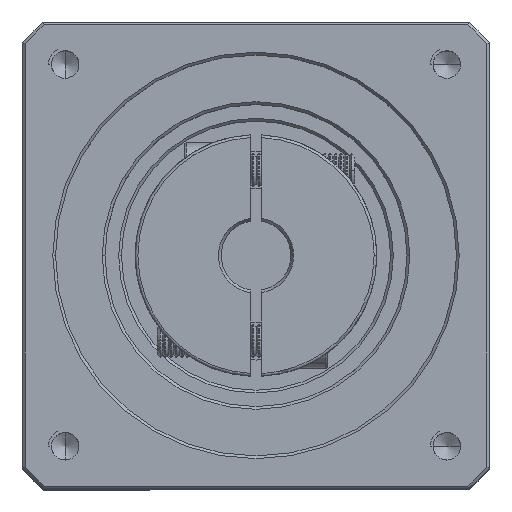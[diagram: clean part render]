
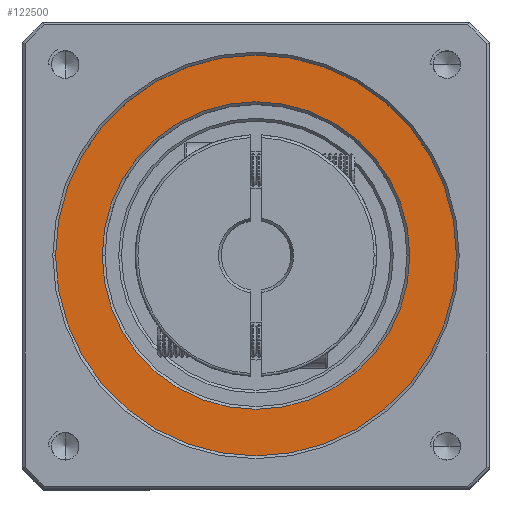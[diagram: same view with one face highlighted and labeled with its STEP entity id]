
A CAD part, top view. The second image highlights one B-rep face of the part: STEP entity #122500.
In plain terms, the highlighted planar face has unit normal (0, 0, 1).
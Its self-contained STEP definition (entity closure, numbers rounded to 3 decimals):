
#4047 = DIRECTION ( 'NONE',  ( 1., 0., 0. ) ) ;
#8746 = CARTESIAN_POINT ( 'NONE',  ( 1.842, 1.512, 180. ) ) ;
#14284 = DIRECTION ( 'NONE',  ( 0., 0., -1. ) ) ;
#14746 = CIRCLE ( 'NONE', #98863, 36.5 ) ;
#14783 = DIRECTION ( 'NONE',  ( 1., 0., 0. ) ) ;
#15607 = CIRCLE ( 'NONE', #68091, 28. ) ;
#16497 = CARTESIAN_POINT ( 'NONE',  ( -34.658, 1.512, 180. ) ) ;
#25905 = DIRECTION ( 'NONE',  ( 0., 0., 1. ) ) ;
#29462 = CARTESIAN_POINT ( 'NONE',  ( -62.658, 1.512, 180. ) ) ;
#31641 = FACE_BOUND ( 'NONE', #112313, .T. ) ;
#39882 = EDGE_CURVE ( 'NONE', #62504, #107399, #15607, .T. ) ;
#42168 = CARTESIAN_POINT ( 'NONE',  ( -34.658, 1.512, 180. ) ) ;
#49841 = ORIENTED_EDGE ( 'NONE', *, *, #39882, .T. ) ;
#54444 = DIRECTION ( 'NONE',  ( 1., 0., 0. ) ) ;
#62476 = ORIENTED_EDGE ( 'NONE', *, *, #92080, .T. ) ;
#62504 = VERTEX_POINT ( 'NONE', #29462 ) ;
#63971 = DIRECTION ( 'NONE',  ( 0., 0., 1. ) ) ;
#66858 = FACE_OUTER_BOUND ( 'NONE', #111784, .T. ) ;
#68091 = AXIS2_PLACEMENT_3D ( 'NONE', #112844, #14284, #54444 ) ;
#72970 = AXIS2_PLACEMENT_3D ( 'NONE', #73162, #92453, #93325 ) ;
#73162 = CARTESIAN_POINT ( 'NONE',  ( -34.658, 1.512, 180. ) ) ;
#74242 = CARTESIAN_POINT ( 'NONE',  ( -34.658, 1.512, 180. ) ) ;
#80253 = EDGE_CURVE ( 'NONE', #97490, #90406, #14746, .T. ) ;
#80432 = CARTESIAN_POINT ( 'NONE',  ( -71.158, 1.512, 180. ) ) ;
#88837 = CIRCLE ( 'NONE', #91777, 36.5 ) ;
#90406 = VERTEX_POINT ( 'NONE', #8746 ) ;
#91123 = AXIS2_PLACEMENT_3D ( 'NONE', #74242, #63971, #14783 ) ;
#91777 = AXIS2_PLACEMENT_3D ( 'NONE', #16497, #25905, #114243 ) ;
#92080 = EDGE_CURVE ( 'NONE', #107399, #62504, #112735, .T. ) ;
#92453 = DIRECTION ( 'NONE',  ( 0., 0., -1. ) ) ;
#93325 = DIRECTION ( 'NONE',  ( 1., 0., 0. ) ) ;
#96716 = EDGE_CURVE ( 'NONE', #90406, #97490, #88837, .T. ) ;
#97490 = VERTEX_POINT ( 'NONE', #80432 ) ;
#98863 = AXIS2_PLACEMENT_3D ( 'NONE', #42168, #102653, #4047 ) ;
#102653 = DIRECTION ( 'NONE',  ( 0., 0., 1. ) ) ;
#107399 = VERTEX_POINT ( 'NONE', #122662 ) ;
#111784 = EDGE_LOOP ( 'NONE', ( #120130, #118792 ) ) ;
#112313 = EDGE_LOOP ( 'NONE', ( #62476, #49841 ) ) ;
#112735 = CIRCLE ( 'NONE', #72970, 28. ) ;
#112844 = CARTESIAN_POINT ( 'NONE',  ( -34.658, 1.512, 180. ) ) ;
#114243 = DIRECTION ( 'NONE',  ( 1., 0., 0. ) ) ;
#118792 = ORIENTED_EDGE ( 'NONE', *, *, #80253, .T. ) ;
#120130 = ORIENTED_EDGE ( 'NONE', *, *, #96716, .T. ) ;
#122500 = ADVANCED_FACE ( 'NONE', ( #66858, #31641 ), #123613, .T. ) ;
#122662 = CARTESIAN_POINT ( 'NONE',  ( -6.658, 1.512, 180. ) ) ;
#123613 = PLANE ( 'NONE',  #91123 ) ;
